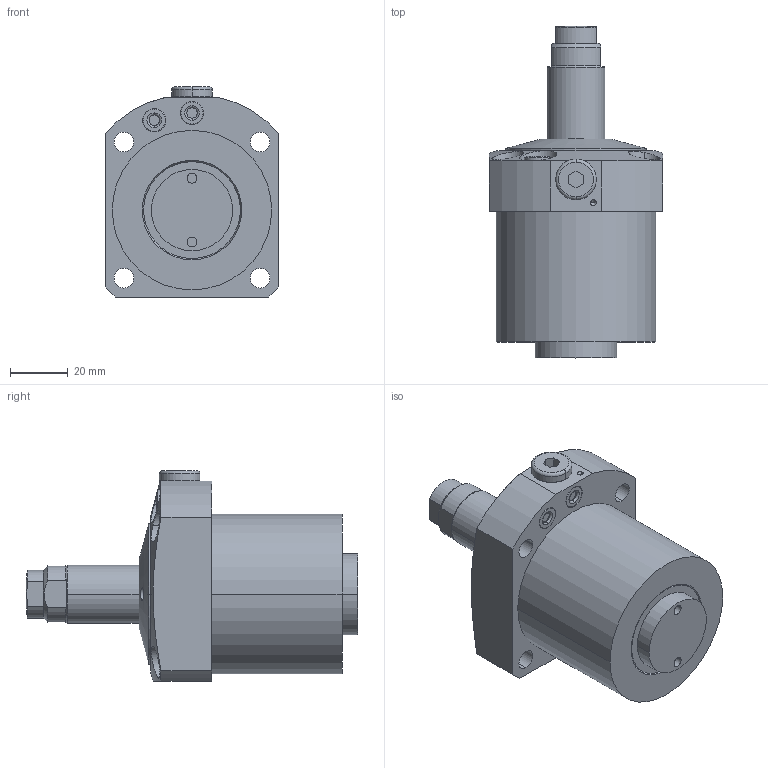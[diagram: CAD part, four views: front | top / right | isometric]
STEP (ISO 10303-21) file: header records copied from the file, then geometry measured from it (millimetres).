
FILE_DESCRIPTION(/* description */ (''),/* implementation_level */ '2;1');
FILE_NAME(/* name */ 'KFSS55-Q.stp',/* time_stamp */ '2023-01-10T13:22:40+08:00',/* author */ (''),/* organization */ (''),/* preprocessor_version */ 'ST-DEVELOPER v16.7',/* originating_system */ 'SIEMENS PLM Software NX 12.0',/* authorisation */ '');
FILE_SCHEMA (('AP203_CONFIGURATION_CONTROLLED_3D_DESIGN_OF_MECHANICAL_PARTS_AND_ASSEMBLIES_MIM_LF { 1 0 10303 403 2 1 2}'));
Length unit declared in the file: millimetre
Products named in the file (8): KFSS55-Q-4; KFSS55-Q-3; KFSS55-Q-5; KFSS55-Q-7; KFSS55-Q-2; KFSS55-Q-6; KFSS55-Q-1; LC0552-C-EQ_step
Assembly tree (8 placements, depth 2):
  LC0552-C-EQ_step
    KFSS55-Q-1
    KFSS55-Q-6  x2
    KFSS55-Q-2
    KFSS55-Q-7
    KFSS55-Q-5
    KFSS55-Q-3
    KFSS55-Q-4
Bounding box: 60 x 114.5 x 72.5 mm (x, y, z)
Volume: 192019.3 mm3; surface area: 31620.4 mm2
Topology: 8 solids, 8 shells, 218 faces, 475 edges, 294 vertices
Faces by surface type: cylinder 87, plane 63, cone 38, torus 28, sphere 2
Entity records: 6808 total; most frequent: CARTESIAN_POINT 1193, DIRECTION 1078, ORIENTED_EDGE 890, AXIS2_PLACEMENT_3D 451, EDGE_CURVE 445, VERTEX_POINT 280, EDGE_LOOP 245, CIRCLE 236
